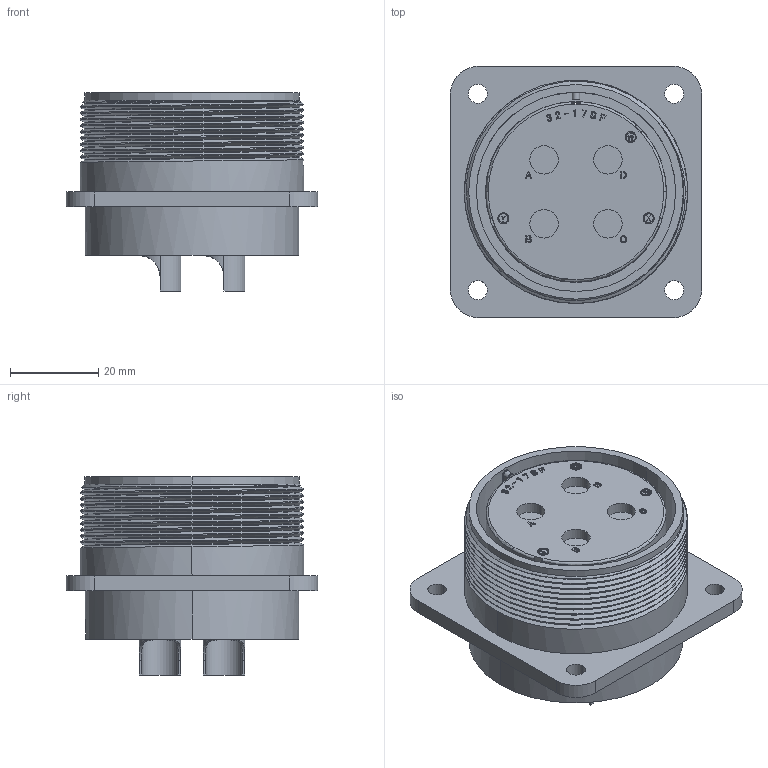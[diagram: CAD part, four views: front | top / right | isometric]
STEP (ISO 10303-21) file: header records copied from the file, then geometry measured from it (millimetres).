
FILE_DESCRIPTION (( 'STEP AP203' ), '1' );
FILE_NAME ('DMS3102A32-17S.STEP', '2017-03-06T01:49:13', ( '' ), ( '' ), 'SwSTEP 2.0', 'SolidWorks 2015', '' );
FILE_SCHEMA (( 'CONFIG_CONTROL_DESIGN' ));
Length unit declared in the file: millimetre
Products named in the file (1): DMS3102A32-17S
Bounding box: 56.9 x 56.9 x 44.84 mm (x, y, z)
Volume: 62366 mm3; surface area: 27631.9 mm2
Topology: 1 solids, 1 shells, 622 faces, 1680 edges, 1098 vertices
Faces by surface type: plane 274, cylinder 171, bspline 157, torus 17, cone 3
Entity records: 25723 total; most frequent: CARTESIAN_POINT 11194, ORIENTED_EDGE 3356, DIRECTION 2443, EDGE_CURVE 1678, VERTEX_POINT 1098, LINE 945, VECTOR 945, AXIS2_PLACEMENT_3D 749
